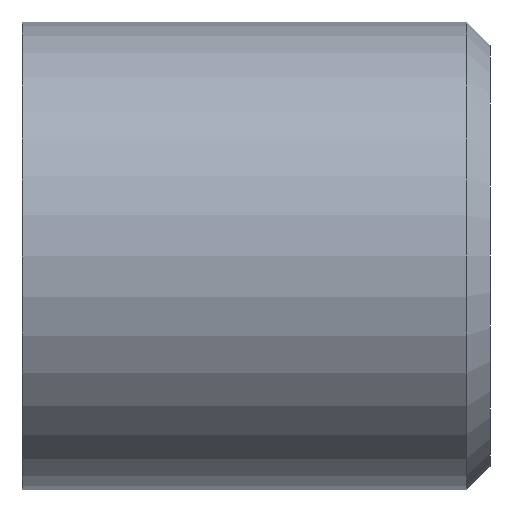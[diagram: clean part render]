
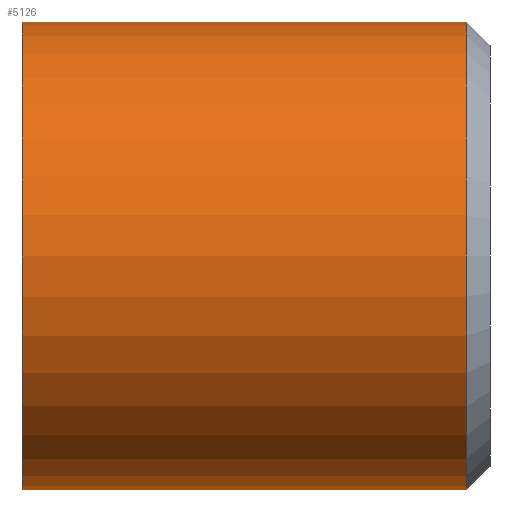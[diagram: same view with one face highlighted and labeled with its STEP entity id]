
A CAD part, front view. The second image highlights one B-rep face of the part: STEP entity #5126.
In plain terms, the highlighted cylindrical face has radius 10 mm (diameter 20 mm), a partial arc.
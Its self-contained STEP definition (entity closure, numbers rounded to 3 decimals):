
#57 = CARTESIAN_POINT ( 'NONE',  ( 9., 0., -10. ) ) ;
#1067 = DIRECTION ( 'NONE',  ( 0., 0., -1. ) ) ;
#1068 = DIRECTION ( 'NONE',  ( 1., 0., 0. ) ) ;
#1069 = CARTESIAN_POINT ( 'NONE',  ( -0.5, 0., 0. ) ) ;
#1070 = AXIS2_PLACEMENT_3D ( 'NONE', #1069, #1068, #1067 ) ;
#1071 = CYLINDRICAL_SURFACE ( 'NONE', #1070, 10. ) ;
#1072 = FACE_OUTER_BOUND ( 'NONE', #5138, .T. ) ;
#1073 = DIRECTION ( 'NONE',  ( 0., 0., -1. ) ) ;
#1074 = DIRECTION ( 'NONE',  ( -1., 0., 0. ) ) ;
#1075 = CARTESIAN_POINT ( 'NONE',  ( 9., 0., 0. ) ) ;
#1076 = AXIS2_PLACEMENT_3D ( 'NONE', #1075, #1074, #1073 ) ;
#1077 = CIRCLE ( 'NONE', #1076, 10. ) ;
#3812 = EDGE_CURVE ( 'NONE', #3837, #3888, #5033, .T. ) ;
#3835 = EDGE_CURVE ( 'NONE', #3838, #3840, #7646, .T. ) ;
#3837 = VERTEX_POINT ( 'NONE', #7637 ) ;
#3838 = VERTEX_POINT ( 'NONE', #7636 ) ;
#3840 = VERTEX_POINT ( 'NONE', #7619 ) ;
#3888 = VERTEX_POINT ( 'NONE', #57 ) ;
#5030 = DIRECTION ( 'NONE',  ( 1., 0., 0. ) ) ;
#5031 = VECTOR ( 'NONE', #5030, 1000. ) ;
#5032 = CARTESIAN_POINT ( 'NONE',  ( -0.5, 0., -10. ) ) ;
#5033 = LINE ( 'NONE', #5032, #5031 ) ;
#5125 = EDGE_CURVE ( 'NONE', #3888, #3840, #1077, .T. ) ;
#5126 = ADVANCED_FACE ( 'NONE', ( #1072 ), #1071, .T. ) ;
#5127 = ORIENTED_EDGE ( 'NONE', *, *, #3835, .F. ) ;
#5128 = ORIENTED_EDGE ( 'NONE', *, *, #5200, .T. ) ;
#5129 = ORIENTED_EDGE ( 'NONE', *, *, #3812, .T. ) ;
#5130 = ORIENTED_EDGE ( 'NONE', *, *, #5125, .T. ) ;
#5138 = EDGE_LOOP ( 'NONE', ( #5127, #5128, #5129, #5130 ) ) ;
#5200 = EDGE_CURVE ( 'NONE', #3838, #3837, #7490, .T. ) ;
#7482 = DIRECTION ( 'NONE',  ( 0., 0., -1. ) ) ;
#7483 = DIRECTION ( 'NONE',  ( 1., 0., 0. ) ) ;
#7484 = CARTESIAN_POINT ( 'NONE',  ( -10., 0., 0. ) ) ;
#7485 = AXIS2_PLACEMENT_3D ( 'NONE', #7484, #7483, #7482 ) ;
#7490 = CIRCLE ( 'NONE', #7485, 10. ) ;
#7619 = CARTESIAN_POINT ( 'NONE',  ( 9., 0., 10. ) ) ;
#7636 = CARTESIAN_POINT ( 'NONE',  ( -10., 0., 10. ) ) ;
#7637 = CARTESIAN_POINT ( 'NONE',  ( -10., 0., -10. ) ) ;
#7638 = DIRECTION ( 'NONE',  ( 1., 0., 0. ) ) ;
#7639 = VECTOR ( 'NONE', #7638, 1000. ) ;
#7640 = CARTESIAN_POINT ( 'NONE',  ( -0.5, 0., 10. ) ) ;
#7646 = LINE ( 'NONE', #7640, #7639 ) ;
